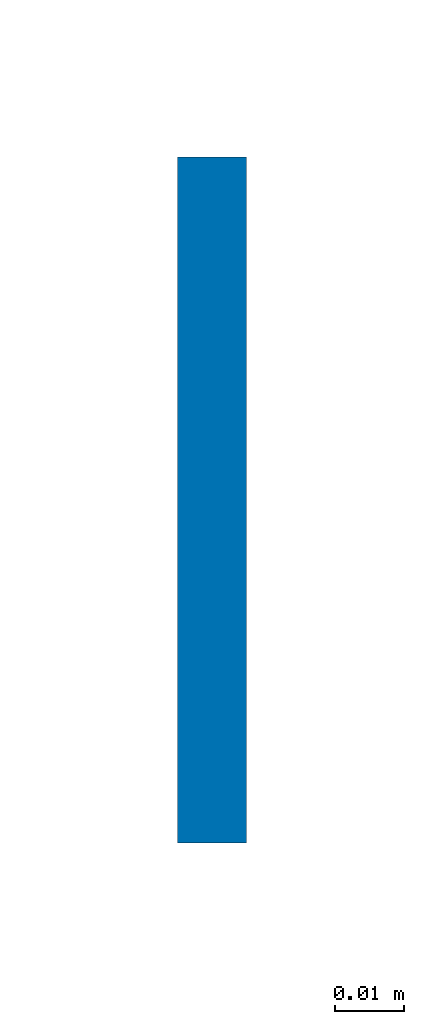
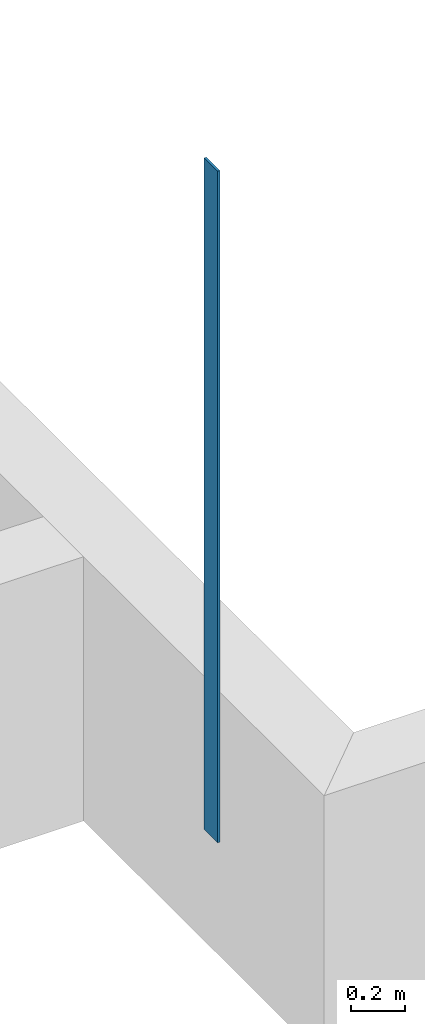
# One storey, part 1 of 5: 1 column.
"""IFC2X3 building model written with IfcOpenShell, lengths in metres."""

from ifc_helpers import new_model, entity, si_unit, converted_unit, derived_unit, direction, frame, origin, origin_2d_with_axis, place, context, subcontext, project, spatial, rectangle, extrude, source, transform, mapped, material, material_list, type_object, type_shapes, element, save


model = new_model("IFC2X3")

# Units and contexts
model_context = context("Model", 3, precision=1e-05, world=origin(), true_north=direction((6.123031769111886e-17, 1.0)))
body_context = subcontext(model_context, "Body", "Model", "MODEL_VIEW")
ifc_project = project(units=[si_unit("LENGTHUNIT", "METRE"), si_unit("AREAUNIT", "SQUARE_METRE"), si_unit("VOLUMEUNIT", "CUBIC_METRE"), converted_unit("PLANEANGLEUNIT", "DEGREE", entity("IfcRatioMeasure", 0.017453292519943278), si_unit("PLANEANGLEUNIT", "RADIAN"), dimensions=[0, 0, 0, 0, 0, 0, 0]), si_unit("MASSUNIT", "GRAM", prefix="KILO"), derived_unit("MASSDENSITYUNIT", [(si_unit("MASSUNIT", "GRAM", prefix="KILO"), 1), (si_unit("LENGTHUNIT", "METRE"), -3)]), derived_unit("MOMENTOFINERTIAUNIT", [(si_unit("LENGTHUNIT", "METRE"), 4)]), si_unit("TIMEUNIT", "SECOND"), si_unit("FREQUENCYUNIT", "HERTZ"), si_unit("THERMODYNAMICTEMPERATUREUNIT", "DEGREE_CELSIUS"), derived_unit("THERMALTRANSMITTANCEUNIT", [(si_unit("MASSUNIT", "GRAM", prefix="KILO"), 1), (si_unit("THERMODYNAMICTEMPERATUREUNIT", "KELVIN"), -1), (si_unit("TIMEUNIT", "SECOND"), -3)]), derived_unit("THERMALCONDUCTANCEUNIT", [(si_unit("MASSUNIT", "GRAM", prefix="KILO"), 1), (si_unit("LENGTHUNIT", "METRE"), 1), (si_unit("THERMODYNAMICTEMPERATUREUNIT", "KELVIN"), -1), (si_unit("TIMEUNIT", "SECOND"), -3)]), derived_unit("VOLUMETRICFLOWRATEUNIT", [(si_unit("LENGTHUNIT", "METRE"), 3), (si_unit("TIMEUNIT", "SECOND"), -1)]), derived_unit("MASSFLOWRATEUNIT", [(si_unit("MASSUNIT", "GRAM", prefix="KILO"), 1), (si_unit("TIMEUNIT", "SECOND"), -1)]), derived_unit("ROTATIONALFREQUENCYUNIT", [(si_unit("TIMEUNIT", "SECOND"), -1)]), si_unit("ELECTRICCURRENTUNIT", "AMPERE"), si_unit("ELECTRICVOLTAGEUNIT", "VOLT"), si_unit("POWERUNIT", "WATT"), si_unit("FORCEUNIT", "NEWTON", prefix="KILO"), si_unit("ILLUMINANCEUNIT", "LUX"), si_unit("LUMINOUSFLUXUNIT", "LUMEN"), si_unit("LUMINOUSINTENSITYUNIT", "CANDELA"), derived_unit("USERDEFINED", [(si_unit("MASSUNIT", "GRAM", prefix="KILO"), -1), (si_unit("LENGTHUNIT", "METRE"), -2), (si_unit("TIMEUNIT", "SECOND"), 3), (si_unit("LUMINOUSFLUXUNIT", "LUMEN"), 1)]), derived_unit("USERDEFINED", [(si_unit("MASSUNIT", "GRAM", prefix="KILO"), 1), (si_unit("LENGTHUNIT", "METRE"), 3), (si_unit("TIMEUNIT", "SECOND"), -3), (si_unit("ELECTRICCURRENTUNIT", "AMPERE"), -2)]), derived_unit("USERDEFINED", [(si_unit("LENGTHUNIT", "METRE"), 2), (si_unit("TIMEUNIT", "SECOND"), -2)]), derived_unit("SOUNDPOWERUNIT", [(si_unit("MASSUNIT", "GRAM", prefix="KILO"), 1), (si_unit("LENGTHUNIT", "METRE"), 2), (si_unit("TIMEUNIT", "SECOND"), -3)]), derived_unit("SOUNDPRESSUREUNIT", [(si_unit("MASSUNIT", "GRAM", prefix="KILO"), 1), (si_unit("LENGTHUNIT", "METRE"), -1), (si_unit("TIMEUNIT", "SECOND"), -2)]), derived_unit("LINEARVELOCITYUNIT", [(si_unit("LENGTHUNIT", "METRE"), 1), (si_unit("TIMEUNIT", "SECOND"), -1)]), si_unit("PRESSUREUNIT", "PASCAL"), derived_unit("USERDEFINED", [(si_unit("LENGTHUNIT", "METRE"), -2), (si_unit("MASSUNIT", "GRAM", prefix="KILO"), 1), (si_unit("TIMEUNIT", "SECOND"), -2)]), derived_unit("LINEARFORCEUNIT", [(si_unit("MASSUNIT", "GRAM", prefix="KILO"), 1), (si_unit("LENGTHUNIT", "METRE"), 1), (si_unit("TIMEUNIT", "SECOND"), -2), (si_unit("LENGTHUNIT", "METRE"), -1)]), derived_unit("PLANARFORCEUNIT", [(si_unit("MASSUNIT", "GRAM", prefix="KILO"), 1), (si_unit("LENGTHUNIT", "METRE"), 1), (si_unit("TIMEUNIT", "SECOND"), -2), (si_unit("LENGTHUNIT", "METRE"), -2)]), derived_unit("SPECIFICHEATCAPACITYUNIT", [(si_unit("LENGTHUNIT", "METRE"), 2), (si_unit("TIMEUNIT", "SECOND"), -2), (si_unit("THERMODYNAMICTEMPERATUREUNIT", "KELVIN"), -1)]), derived_unit("VAPORPERMEABILITYUNIT", [(si_unit("TIMEUNIT", "SECOND"), 1), (si_unit("LENGTHUNIT", "METRE"), -1)]), derived_unit("DYNAMICVISCOSITYUNIT", [(si_unit("MASSUNIT", "GRAM", prefix="KILO"), 1), (si_unit("LENGTHUNIT", "METRE"), -1), (si_unit("TIMEUNIT", "SECOND"), -1)]), derived_unit("THERMALEXPANSIONCOEFFICIENTUNIT", [(si_unit("THERMODYNAMICTEMPERATUREUNIT", "KELVIN"), -1)])], contexts=[model_context])

# Site, building, storey
site_placement = place(None, origin())
site = spatial("IfcSite", under=ifc_project, at=site_placement, Name="Default", CompositionType="ELEMENT")
building_placement = place(site_placement, origin())
building = spatial("IfcBuilding", under=site, at=building_placement, CompositionType="ELEMENT")
storey_placement = place(building_placement, frame((0.0, 0.0, -1.0)))
storey = spatial("IfcBuildingStorey", under=building, at=storey_placement, Name="VS", CompositionType="ELEMENT", Elevation=-0.9999999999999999)

# Column
ifc_material_1 = material(Name="Peinture - Gris foncé")
ifc_material_2 = material(Name="<Unnamed>")
ifc_material_list = material_list([ifc_material_2, ifc_material_1])
column_type = type_object("IfcColumnType", Name="Pot-006 134395:Pot-006 134395", PredefinedType="COLUMN", material=ifc_material_list)
shared_shape = source(origin(), body_context, "Body", "SweptSolid", [
    extrude(rectangle(XDim=0.1, YDim=0.01, at=origin_2d_with_axis()), frame((0.0, 0.0, 0.0), z_axis=(0.0, 0.0, 1.0), x_axis=(0.0, -1.0, 0.0)), (0.0, 0.0, 1.0), 3.05),
])
type_shapes(column_type, [shared_shape])
column_placement = place(storey_placement, frame((109.700752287, 4.70720948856, 0.5499999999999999)))
element("IfcColumn", 1, at=column_placement, inside=storey, type_object=column_type, material=ifc_material_1, Name="Pot-006", ObjectType="Pot-006 134395:Pot-006 134395", context=body_context, shape_type="MappedRepresentation", body=[
    mapped(shared_shape, transform((0.0, 0.0, 0.0), scale=1.0)),
])

save(model, "model.ifc")
